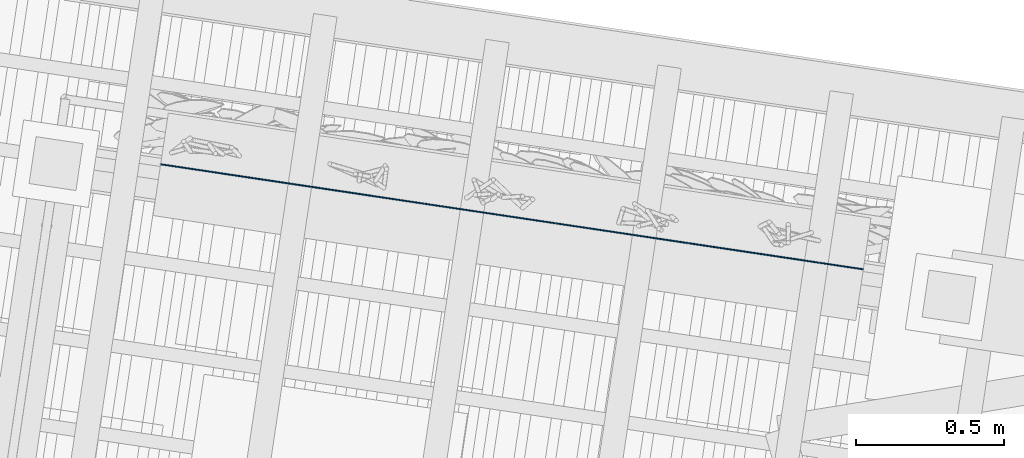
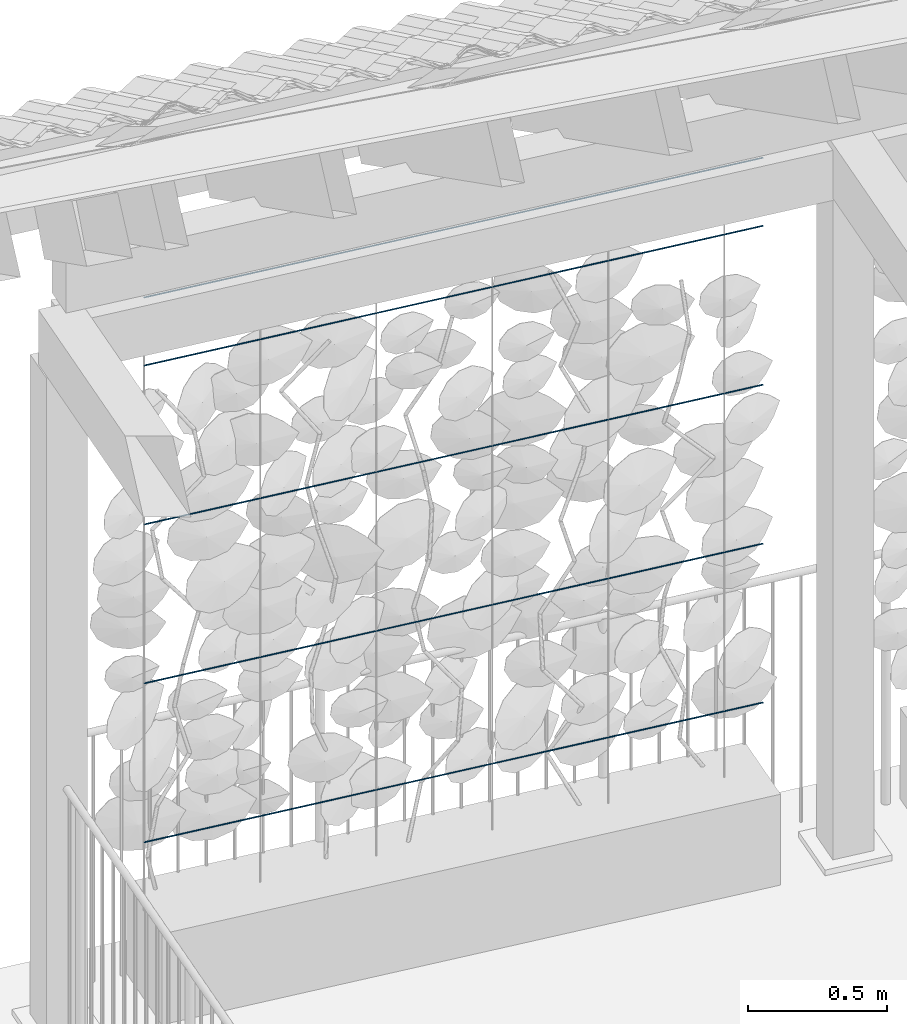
# One storey, part 28 of 131: 5 members, 1 element without a shape of its own.
"""IFC4 building model written with IfcOpenShell, lengths in metres."""

from ifc_helpers import new_model, si_unit, direction, frame, origin_with_axes, place, context, subcontext, project, spatial, circle, extrude, material, material_profile, profile_set, profile_usage, type_object, element, aggregate, save


model = new_model("IFC4")

# Units and contexts
model_context = context("Model", 3, precision=1e-05, world=origin_with_axes(), true_north=direction((0.0, 1.0)))
body_context = subcontext(model_context, "Body", "Model", "MODEL_VIEW")
ifc_project = project(units=[si_unit("VOLUMEUNIT", "CUBIC_METRE"), si_unit("LENGTHUNIT", "METRE"), si_unit("AREAUNIT", "SQUARE_METRE")], contexts=[model_context])

# Site, building, storey
site_placement = place(None, origin_with_axes())
site = spatial("IfcSite", under=ifc_project, at=site_placement, Name="Lares · Rua das Mercês · artigo 4771")
building_placement = place(site_placement, frame((15.0, 9.7, 15.8), z_axis=(0.0, 0.0, 1.0), x_axis=(0.989015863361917, -0.147809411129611, 0.0)))
building = spatial("IfcBuilding", under=site, at=building_placement, Name="Casa Sobreposta")
storey_placement = place(building_placement, origin_with_axes())
storey = spatial("IfcBuildingStorey", under=building, at=storey_placement, Name="00 · Habitação e estacionamento", Elevation=15.8)

# Assembly, members
assembly_placement = place(storey_placement, origin_with_axes())
assembly = element("IfcElementAssembly", 1, at=assembly_placement, inside=storey, Name="Fachada sul e pátio · estrutura e trepadeiras", ObjectType="LIVING_SHADE_TRELLIS", PredefinedType="USERDEFINED")
ifc_material = material(Name="Aço galvanizado / Stahl verzinkt", Category="steel")
ifc_material_profile = material_profile(ifc_material, circle(Radius=0.002))
ifc_profile_set = profile_set([ifc_material_profile], Name="D0.004")
ifc_profile_usage_1 = profile_usage(ifc_profile_set)
member_type = type_object("IfcMemberType", Name="D0.004 / galvanized", PredefinedType="NOTDEFINED", material=ifc_profile_set)
member_1_placement = place(assembly_placement, frame((-5.7, 6.48, 0.65), z_axis=(1.0, 0.0, 0.0), x_axis=(0.0, -1.0, 0.0)))
member_1 = element("IfcMember", 2, at=member_1_placement, type_object=member_type, material=ifc_profile_usage_1, Name="Trepadeiras · fio horizontal", context=body_context, shape_type="SweptSolid", body=[
    extrude(circle(Radius=0.002), origin_with_axes(), (0.0, 0.0, 1.0), 2.4),
])
ifc_profile_usage_2 = profile_usage(ifc_profile_set)
member_2_placement = place(assembly_placement, frame((-5.7, 6.48, 1.35), z_axis=(1.0, 0.0, 0.0), x_axis=(0.0, -1.0, 0.0)))
member_2 = element("IfcMember", 3, at=member_2_placement, type_object=member_type, material=ifc_profile_usage_2, Name="Trepadeiras · fio horizontal", context=body_context, shape_type="SweptSolid", body=[
    extrude(circle(Radius=0.002), origin_with_axes(), (0.0, 0.0, 1.0), 2.4),
])
ifc_profile_usage_3 = profile_usage(ifc_profile_set)
member_3_placement = place(assembly_placement, frame((-5.7, 6.48, 2.05), z_axis=(1.0, 0.0, 0.0), x_axis=(0.0, -1.0, 0.0)))
member_3 = element("IfcMember", 4, at=member_3_placement, type_object=member_type, material=ifc_profile_usage_3, Name="Trepadeiras · fio horizontal", context=body_context, shape_type="SweptSolid", body=[
    extrude(circle(Radius=0.002), origin_with_axes(), (0.0, 0.0, 1.0), 2.4),
])
ifc_profile_usage_4 = profile_usage(ifc_profile_set)
member_4_placement = place(assembly_placement, frame((-5.7, 6.48, 2.75), z_axis=(1.0, 0.0, 0.0), x_axis=(0.0, -1.0, 0.0)))
member_4 = element("IfcMember", 5, at=member_4_placement, type_object=member_type, material=ifc_profile_usage_4, Name="Trepadeiras · fio horizontal", context=body_context, shape_type="SweptSolid", body=[
    extrude(circle(Radius=0.002), origin_with_axes(), (0.0, 0.0, 1.0), 2.4),
])
ifc_profile_usage_5 = profile_usage(ifc_profile_set)
member_5_placement = place(assembly_placement, frame((-5.7, 6.48, 3.05), z_axis=(1.0, 0.0, 0.0), x_axis=(0.0, -1.0, 0.0)))
member_5 = element("IfcMember", 6, at=member_5_placement, type_object=member_type, material=ifc_profile_usage_5, Name="Trepadeiras · fio horizontal", context=body_context, shape_type="SweptSolid", body=[
    extrude(circle(Radius=0.002), origin_with_axes(), (0.0, 0.0, 1.0), 2.4),
])
aggregate(assembly, [member_1, member_2, member_3, member_4, member_5])

save(model, "model.ifc")
